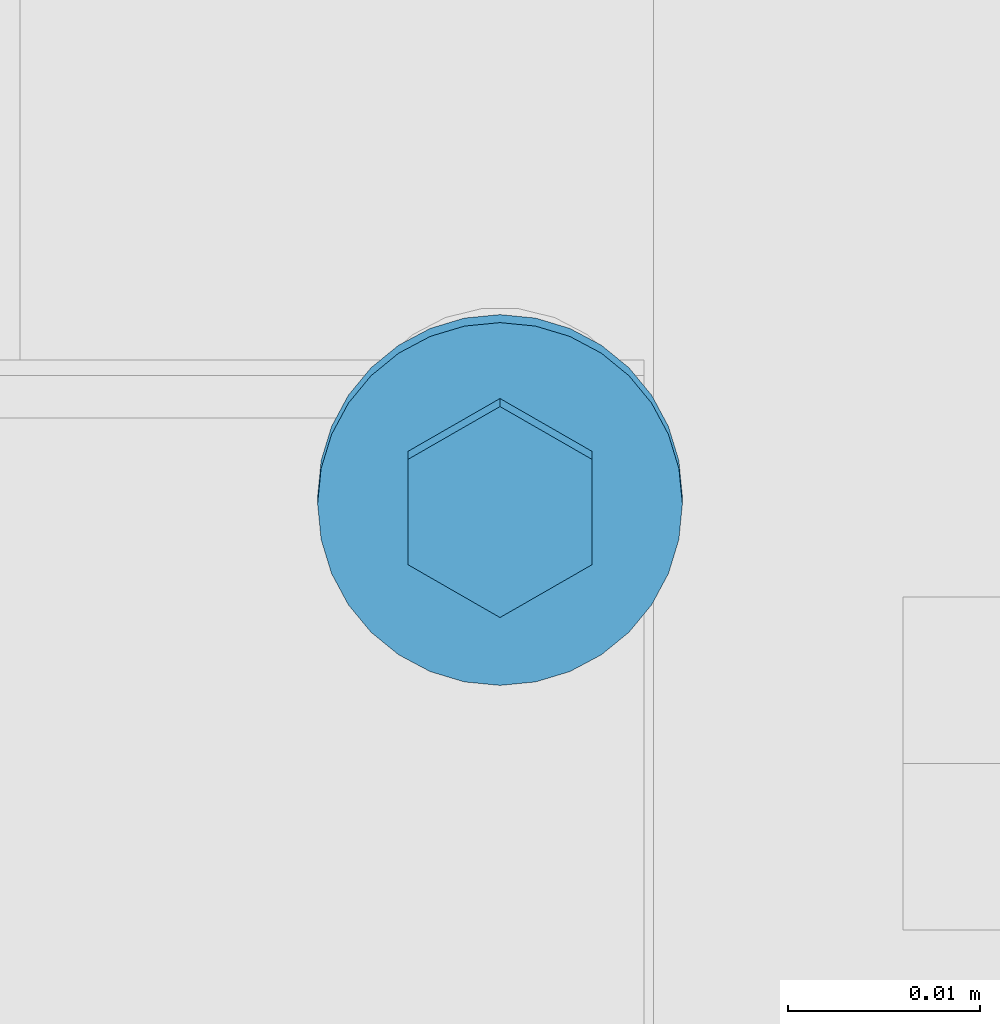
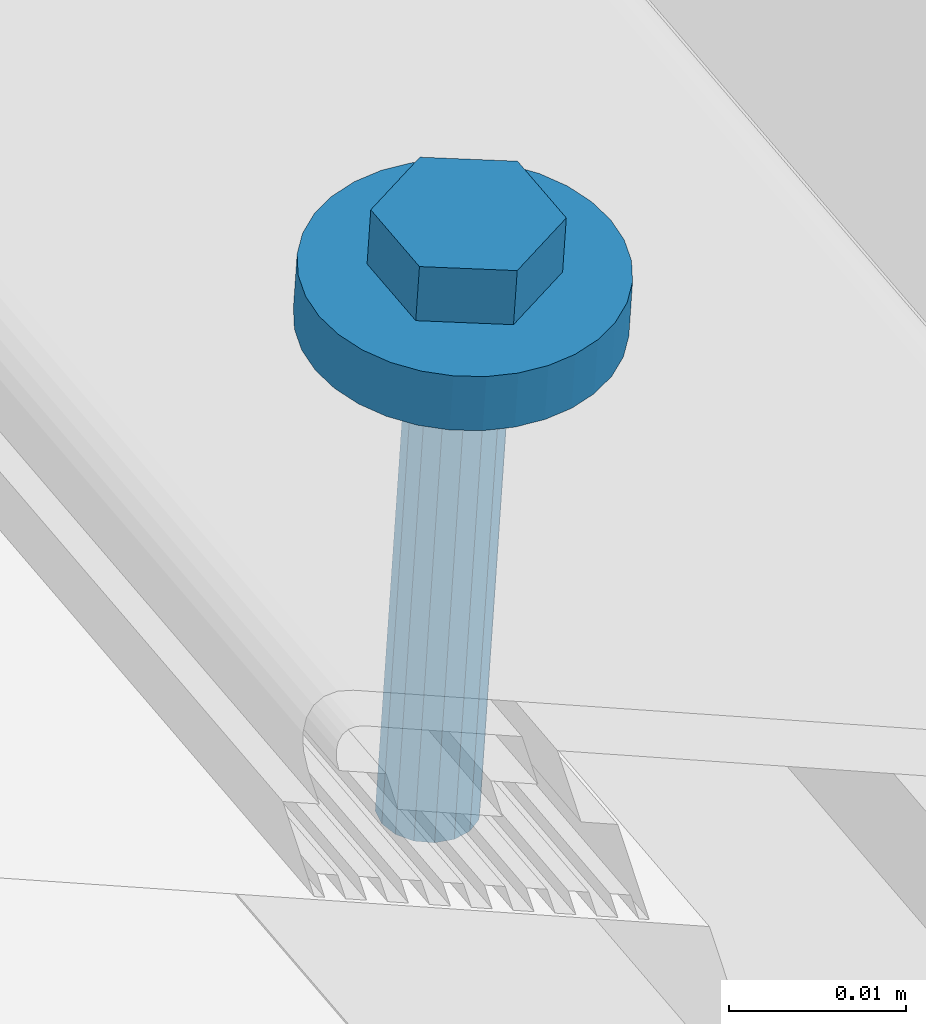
# One storey, part 77 of 162: 1 mechanical fastener.
"""IFC2X3 building model written with IfcOpenShell, lengths in millimetres."""

from ifc_helpers import new_model, entity, si_unit, converted_unit, origin_with_axes, place, context, project, spatial, faceted_brep, element, save


model = new_model("IFC2X3")

# Units and contexts
model_context = context("Model", 3, precision=1e-09, world=origin_with_axes())
ifc_project = project(units=[si_unit("LENGTHUNIT", "METRE", prefix="MILLI"), si_unit("AREAUNIT", "SQUARE_METRE"), si_unit("VOLUMEUNIT", "CUBIC_METRE"), converted_unit("PLANEANGLEUNIT", "DEGREE", entity("IfcPlaneAngleMeasure", 0.01745329), si_unit("PLANEANGLEUNIT", "RADIAN"), dimensions=[0, 0, 0, 0, 0, 0, 0])], contexts=[model_context])

# Site, building, storey
site_placement = place(None, origin_with_axes())
site = spatial("IfcSite", under=ifc_project, at=site_placement, Name="Hermannstra?e 1a, 60318 Frankfurt", CompositionType="ELEMENT")
building_placement = place(site_placement, origin_with_axes())
building = spatial("IfcBuilding", under=site, at=building_placement, Name="Struktur 1", CompositionType="ELEMENT")
storey_placement = place(building_placement, origin_with_axes())
storey = spatial("IfcBuildingStorey", under=building, at=storey_placement, Name="Default Storey", CompositionType="ELEMENT", Elevation=0.0)

# Mechanical fastener
mechanical_fastener_placement = place(None, origin_with_axes())
element("IfcMechanicalFastener", 1, at=mechanical_fastener_placement, inside=storey, ObjectType="-", NominalDiameter=6.0, NominalLength=40.0, context=model_context, shape_type="Brep", body=[
    faceted_brep([(5776.309364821, 2644.118266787, 17523.650958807), (5776.309364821, 2644.53638064, 17519.672871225), (5776.491904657, 2642.69317547, 17519.479142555), (5776.491904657, 2642.275061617, 17523.457230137), (5777.032509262, 2640.920803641, 17519.29285877), (5777.032509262, 2640.502689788, 17523.270946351), (5777.910403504, 2639.287376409, 17519.12117865), (5777.910403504, 2638.869262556, 17523.099266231), (5779.0918504, 2637.855665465, 17518.970699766), (5779.0918504, 2637.437551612, 17522.948787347), (5780.531447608, 2636.680690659, 17518.847204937), (5780.531447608, 2636.262576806, 17522.825292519), (5782.173872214, 2635.807605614, 17518.755440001), (5782.173872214, 2635.389491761, 17522.733527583), (5783.956006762, 2635.269962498, 17518.698931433), (5783.956006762, 2634.851848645, 17522.677019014), (5785.809364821, 2635.088422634, 17518.679850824), (5785.809364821, 2634.670308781, 17522.657938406), (5787.66272288, 2635.269962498, 17518.698931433), (5787.66272288, 2634.851848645, 17522.677019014), (5789.444857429, 2635.807605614, 17518.755440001), (5789.444857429, 2635.389491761, 17522.733527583), (5791.087282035, 2636.680690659, 17518.847204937), (5791.087282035, 2636.262576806, 17522.825292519), (5792.526879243, 2637.855665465, 17518.970699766), (5792.526879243, 2637.437551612, 17522.948787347), (5793.708326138, 2639.287376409, 17519.12117865), (5793.708326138, 2638.869262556, 17523.099266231), (5794.58622038, 2640.920803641, 17519.29285877), (5794.58622038, 2640.502689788, 17523.270946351), (5795.126824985, 2642.69317547, 17519.479142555), (5795.126824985, 2642.275061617, 17523.457230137), (5795.309364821, 2644.53638064, 17519.672871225), (5795.309364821, 2644.118266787, 17523.650958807), (5795.126824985, 2646.37958581, 17519.866599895), (5795.126824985, 2645.961471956, 17523.844687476), (5794.58622038, 2648.151957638, 17520.052883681), (5794.58622038, 2647.733843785, 17524.030971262), (5793.708326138, 2649.785384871, 17520.224563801), (5793.708326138, 2649.367271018, 17524.202651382), (5792.526879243, 2651.217095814, 17520.375042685), (5792.526879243, 2650.798981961, 17524.353130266), (5791.087282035, 2652.39207062, 17520.498537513), (5791.087282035, 2651.973956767, 17524.476625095), (5789.444857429, 2653.265155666, 17520.590302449), (5789.444857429, 2652.847041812, 17524.568390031), (5787.66272288, 2653.802798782, 17520.646811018), (5787.66272288, 2653.384684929, 17524.624898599), (5785.809364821, 2653.984338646, 17520.665891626), (5785.809364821, 2653.566224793, 17524.643979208), (5783.956006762, 2653.802798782, 17520.646811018), (5783.956006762, 2653.384684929, 17524.624898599), (5782.173872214, 2653.265155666, 17520.590302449), (5782.173872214, 2652.847041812, 17524.568390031), (5780.531447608, 2652.39207062, 17520.498537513), (5780.531447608, 2651.973956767, 17524.476625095), (5779.0918504, 2651.217095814, 17520.375042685), (5779.0918504, 2650.798981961, 17524.353130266), (5777.910403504, 2649.785384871, 17520.224563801), (5777.910403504, 2649.367271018, 17524.202651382), (5777.032509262, 2648.151957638, 17520.052883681), (5777.032509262, 2647.733843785, 17524.030971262), (5776.491904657, 2646.37958581, 17519.866599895), (5776.491904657, 2645.961471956, 17523.844687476)], [[[0, 1, 2, 3]], [[3, 2, 4, 5]], [[5, 4, 6, 7]], [[7, 6, 8, 9]], [[9, 8, 10, 11]], [[11, 10, 12, 13]], [[13, 12, 14, 15]], [[15, 14, 16, 17]], [[17, 16, 18, 19]], [[19, 18, 20, 21]], [[21, 20, 22, 23]], [[23, 22, 24, 25]], [[25, 24, 26, 27]], [[27, 26, 28, 29]], [[29, 28, 30, 31]], [[31, 30, 32, 33]], [[33, 32, 34, 35]], [[35, 34, 36, 37]], [[37, 36, 38, 39]], [[39, 38, 40, 41]], [[41, 40, 42, 43]], [[43, 42, 44, 45]], [[45, 44, 46, 47]], [[47, 46, 48, 49]], [[49, 48, 50, 51]], [[51, 50, 52, 53]], [[53, 52, 54, 55]], [[55, 54, 56, 57]], [[57, 56, 58, 59]], [[59, 58, 60, 61]], [[61, 60, 62, 63]], [[63, 62, 1, 0]], [[0, 3, 5, 7, 9, 11, 13, 15, 17, 19, 21, 23, 25, 27, 29, 31, 33, 35, 37, 39, 41, 43, 45, 47, 49, 51, 53, 55, 57, 59, 61, 63]], [[1, 62, 60, 58, 56, 54, 52, 50, 48, 46, 44, 42, 40, 38, 36, 34, 32, 30, 28, 26, 24, 22, 20, 18, 16, 14, 12, 10, 8, 6, 4, 2]]]),
    faceted_brep([(5790.594155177, 2641.370900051, 17523.362198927), (5790.594155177, 2640.952786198, 17527.340286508), (5785.809364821, 2638.205419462, 17527.051526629), (5785.809364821, 2638.623533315, 17523.073439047), (5781.024574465, 2640.952786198, 17527.340286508), (5781.024574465, 2641.370900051, 17523.362198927), (5781.024574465, 2646.44751967, 17527.917806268), (5781.024574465, 2646.865633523, 17523.939718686), (5785.809364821, 2649.194886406, 17528.206566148), (5785.809364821, 2649.613000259, 17524.228478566), (5790.594155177, 2646.44751967, 17527.917806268), (5790.594155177, 2646.865633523, 17523.939718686)], [[[0, 1, 2, 3]], [[3, 2, 4, 5]], [[5, 4, 6, 7]], [[7, 6, 8, 9]], [[9, 8, 10, 11]], [[11, 10, 1, 0]], [[4, 2, 1, 10, 8, 6]], [[0, 3, 5, 7, 9, 11]]]),
    faceted_brep([(5782.809364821, 2644.53638064, 17519.672871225), (5782.809364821, 2647.881291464, 17487.848170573), (5783.037726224, 2646.739530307, 17487.72816664), (5783.037726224, 2643.394619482, 17519.552867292), (5783.688044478, 2645.771591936, 17487.626432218), (5783.688044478, 2642.426681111, 17519.45113287), (5784.661314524, 2645.124836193, 17487.55845545), (5784.661314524, 2641.779925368, 17519.383156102), (5785.809364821, 2644.897725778, 17487.534585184), (5785.809364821, 2641.552814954, 17519.359285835), (5786.957415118, 2645.124836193, 17487.55845545), (5786.957415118, 2641.779925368, 17519.383156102), (5787.930685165, 2645.771591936, 17487.626432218), (5787.930685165, 2642.426681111, 17519.45113287), (5788.581003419, 2646.739530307, 17487.72816664), (5788.581003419, 2643.394619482, 17519.552867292), (5788.809364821, 2647.881291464, 17487.848170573), (5788.809364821, 2644.53638064, 17519.672871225), (5788.581003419, 2649.023052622, 17487.968174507), (5788.581003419, 2645.678141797, 17519.792875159), (5787.930685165, 2649.990990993, 17488.069908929), (5787.930685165, 2646.646080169, 17519.894609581), (5786.957415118, 2650.637746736, 17488.137885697), (5786.957415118, 2647.292835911, 17519.962586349), (5785.809364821, 2650.86485715, 17488.161755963), (5785.809364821, 2647.519946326, 17519.986456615), (5784.661314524, 2650.637746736, 17488.137885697), (5784.661314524, 2647.292835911, 17519.962586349), (5783.688044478, 2649.990990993, 17488.069908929), (5783.688044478, 2646.646080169, 17519.894609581), (5783.037726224, 2649.023052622, 17487.968174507), (5783.037726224, 2645.678141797, 17519.792875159)], [[[0, 1, 2, 3]], [[3, 2, 4, 5]], [[5, 4, 6, 7]], [[7, 6, 8, 9]], [[9, 8, 10, 11]], [[11, 10, 12, 13]], [[13, 12, 14, 15]], [[15, 14, 16, 17]], [[17, 16, 18, 19]], [[19, 18, 20, 21]], [[21, 20, 22, 23]], [[23, 22, 24, 25]], [[25, 24, 26, 27]], [[27, 26, 28, 29]], [[29, 28, 30, 31]], [[31, 30, 1, 0]], [[0, 3, 5, 7, 9, 11, 13, 15, 17, 19, 21, 23, 25, 27, 29, 31]], [[1, 30, 28, 26, 24, 22, 20, 18, 16, 14, 12, 10, 8, 6, 4, 2]]]),
    faceted_brep([(5782.809364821, 2647.881291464, 17487.848170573), (5782.809364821, 2648.299405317, 17483.870082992), (5783.037726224, 2647.15764416, 17483.750079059), (5783.037726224, 2646.739530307, 17487.72816664), (5783.688044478, 2646.189705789, 17483.648344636), (5783.688044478, 2645.771591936, 17487.626432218), (5784.661314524, 2645.542950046, 17483.580367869), (5784.661314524, 2645.124836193, 17487.55845545), (5785.809364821, 2645.315839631, 17483.556497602), (5785.809364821, 2644.897725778, 17487.534585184), (5786.957415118, 2645.542950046, 17483.580367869), (5786.957415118, 2645.124836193, 17487.55845545), (5787.930685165, 2646.189705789, 17483.648344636), (5787.930685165, 2645.771591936, 17487.626432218), (5788.581003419, 2647.15764416, 17483.750079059), (5788.581003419, 2646.739530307, 17487.72816664), (5788.809364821, 2648.299405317, 17483.870082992), (5788.809364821, 2647.881291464, 17487.848170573), (5788.581003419, 2649.441166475, 17483.990086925), (5788.581003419, 2649.023052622, 17487.968174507), (5787.930685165, 2650.409104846, 17484.091821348), (5787.930685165, 2649.990990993, 17488.069908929), (5786.957415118, 2651.055860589, 17484.159798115), (5786.957415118, 2650.637746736, 17488.137885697), (5785.809364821, 2651.282971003, 17484.183668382), (5785.809364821, 2650.86485715, 17488.161755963), (5784.661314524, 2651.055860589, 17484.159798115), (5784.661314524, 2650.637746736, 17488.137885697), (5783.688044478, 2650.409104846, 17484.091821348), (5783.688044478, 2649.990990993, 17488.069908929), (5783.037726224, 2649.441166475, 17483.990086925), (5783.037726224, 2649.023052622, 17487.968174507)], [[[0, 1, 2, 3]], [[3, 2, 4, 5]], [[5, 4, 6, 7]], [[7, 6, 8, 9]], [[9, 8, 10, 11]], [[11, 10, 12, 13]], [[13, 12, 14, 15]], [[15, 14, 16, 17]], [[17, 16, 18, 19]], [[19, 18, 20, 21]], [[21, 20, 22, 23]], [[23, 22, 24, 25]], [[25, 24, 26, 27]], [[27, 26, 28, 29]], [[29, 28, 30, 31]], [[31, 30, 1, 0]], [[0, 3, 5, 7, 9, 11, 13, 15, 17, 19, 21, 23, 25, 27, 29, 31]], [[1, 30, 28, 26, 24, 22, 20, 18, 16, 14, 12, 10, 8, 6, 4, 2]]]),
])

save(model, "model.ifc")
